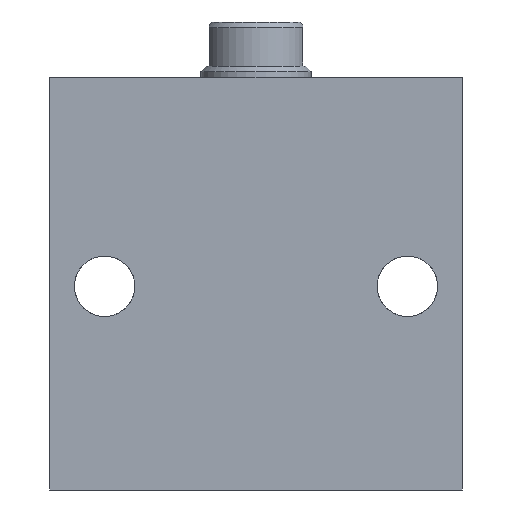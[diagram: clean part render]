
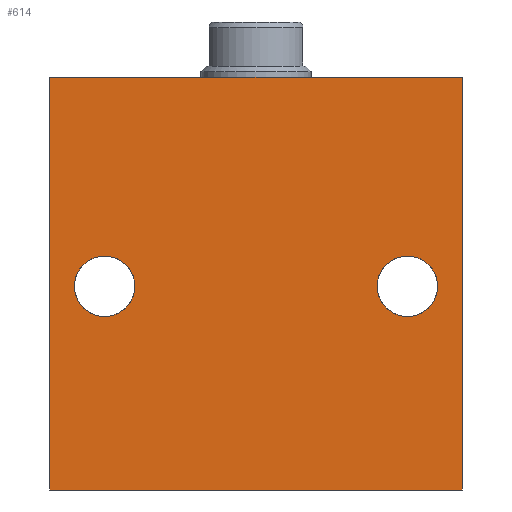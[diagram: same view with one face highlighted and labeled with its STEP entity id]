
A CAD part, front view. The second image highlights one B-rep face of the part: STEP entity #614.
In plain terms, the highlighted planar face has unit normal (0, -1, 0).
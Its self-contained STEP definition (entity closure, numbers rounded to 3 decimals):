
#2 = AXIS2_PLACEMENT_3D ( 'NONE', #630, #698, #694 ) ;
#3 = AXIS2_PLACEMENT_3D ( 'NONE', #636, #634, #633 ) ;
#12 = EDGE_CURVE ( 'NONE', #523, #530, #1974, .T. ) ;
#13 = EDGE_CURVE ( 'NONE', #523, #532, #1973, .T. ) ;
#14 = EDGE_CURVE ( 'NONE', #532, #524, #1972, .T. ) ;
#15 = EDGE_CURVE ( 'NONE', #406, #482, #1968, .T. ) ;
#16 = EDGE_CURVE ( 'NONE', #540, #502, #1970, .T. ) ;
#42 = EDGE_CURVE ( 'NONE', #530, #524, #1940, .T. ) ;
#167 = ORIENTED_EDGE ( 'NONE', *, *, #13, .T. ) ;
#168 = ORIENTED_EDGE ( 'NONE', *, *, #12, .F. ) ;
#169 = ORIENTED_EDGE ( 'NONE', *, *, #42, .F. ) ;
#170 = ORIENTED_EDGE ( 'NONE', *, *, #14, .T. ) ;
#171 = ORIENTED_EDGE ( 'NONE', *, *, #2275, .T. ) ;
#172 = ORIENTED_EDGE ( 'NONE', *, *, #15, .T. ) ;
#173 = ORIENTED_EDGE ( 'NONE', *, *, #2259, .T. ) ;
#174 = ORIENTED_EDGE ( 'NONE', *, *, #16, .T. ) ;
#305 = EDGE_LOOP ( 'NONE', ( #172, #171 ) ) ;
#311 = EDGE_LOOP ( 'NONE', ( #170, #169, #168, #167 ) ) ;
#314 = EDGE_LOOP ( 'NONE', ( #174, #173 ) ) ;
#406 = VERTEX_POINT ( 'NONE', #1155 ) ;
#482 = VERTEX_POINT ( 'NONE', #1137 ) ;
#502 = VERTEX_POINT ( 'NONE', #1129 ) ;
#523 = VERTEX_POINT ( 'NONE', #1103 ) ;
#524 = VERTEX_POINT ( 'NONE', #1102 ) ;
#530 = VERTEX_POINT ( 'NONE', #1094 ) ;
#532 = VERTEX_POINT ( 'NONE', #1092 ) ;
#540 = VERTEX_POINT ( 'NONE', #1184 ) ;
#614 = ADVANCED_FACE ( 'NONE', ( #1752, #1749, #1755 ), #936, .F. ) ;
#630 = CARTESIAN_POINT ( 'NONE',  ( -27.5, -27.5, 37. ) ) ;
#633 = DIRECTION ( 'NONE',  ( 0., 0., 1. ) ) ;
#634 = DIRECTION ( 'NONE',  ( 0., 1., 0. ) ) ;
#636 = CARTESIAN_POINT ( 'NONE',  ( 27.5, -27.5, 37. ) ) ;
#658 = DIRECTION ( 'NONE',  ( 1., 0., 0. ) ) ;
#667 = DIRECTION ( 'NONE',  ( 0., 0., -1. ) ) ;
#679 = CARTESIAN_POINT ( 'NONE',  ( -37.5, -27.5, 75. ) ) ;
#680 = CARTESIAN_POINT ( 'NONE',  ( -37.5, -27.5, 75. ) ) ;
#691 = CARTESIAN_POINT ( 'NONE',  ( -37.5, -27.5, 0. ) ) ;
#694 = DIRECTION ( 'NONE',  ( 0., 0., 1. ) ) ;
#696 = DIRECTION ( 'NONE',  ( 1., 0., 0. ) ) ;
#698 = DIRECTION ( 'NONE',  ( 0., 1., 0. ) ) ;
#702 = DIRECTION ( 'NONE',  ( 0., 0., 1. ) ) ;
#703 = DIRECTION ( 'NONE',  ( 0., 1., 0. ) ) ;
#704 = CARTESIAN_POINT ( 'NONE',  ( 27.5, -27.5, 37. ) ) ;
#772 = DIRECTION ( 'NONE',  ( 0., 0., 1. ) ) ;
#773 = DIRECTION ( 'NONE',  ( 0., 1., 0. ) ) ;
#775 = CARTESIAN_POINT ( 'NONE',  ( -27.5, -27.5, 37. ) ) ;
#934 = DIRECTION ( 'NONE',  ( 0., 0., 1. ) ) ;
#936 = PLANE ( 'NONE',  #2127 ) ;
#940 = CARTESIAN_POINT ( 'NONE',  ( -37.5, -27.5, 75. ) ) ;
#953 = DIRECTION ( 'NONE',  ( 0., 1., 0. ) ) ;
#1092 = CARTESIAN_POINT ( 'NONE',  ( -37.5, -27.5, 0. ) ) ;
#1094 = CARTESIAN_POINT ( 'NONE',  ( 37.5, -27.5, 75. ) ) ;
#1102 = CARTESIAN_POINT ( 'NONE',  ( 37.5, -27.5, 0. ) ) ;
#1103 = CARTESIAN_POINT ( 'NONE',  ( -37.5, -27.5, 75. ) ) ;
#1129 = CARTESIAN_POINT ( 'NONE',  ( -27.5, -27.5, 31.5 ) ) ;
#1137 = CARTESIAN_POINT ( 'NONE',  ( 27.5, -27.5, 31.5 ) ) ;
#1155 = CARTESIAN_POINT ( 'NONE',  ( 27.5, -27.5, 42.5 ) ) ;
#1184 = CARTESIAN_POINT ( 'NONE',  ( -27.5, -27.5, 42.5 ) ) ;
#1278 = CARTESIAN_POINT ( 'NONE',  ( 37.5, -27.5, 75. ) ) ;
#1279 = DIRECTION ( 'NONE',  ( 0., 0., -1. ) ) ;
#1697 = CIRCLE ( 'NONE', #2203, 5.5 ) ;
#1711 = CIRCLE ( 'NONE', #2211, 5.5 ) ;
#1749 = FACE_BOUND ( 'NONE', #305, .T. ) ;
#1752 = FACE_BOUND ( 'NONE', #314, .T. ) ;
#1755 = FACE_OUTER_BOUND ( 'NONE', #311, .T. ) ;
#1936 = VECTOR ( 'NONE', #1279, 1000. ) ;
#1940 = LINE ( 'NONE', #1278, #1936 ) ;
#1967 = VECTOR ( 'NONE', #658, 1000. ) ;
#1968 = CIRCLE ( 'NONE', #3, 5.5 ) ;
#1969 = VECTOR ( 'NONE', #667, 1000. ) ;
#1970 = CIRCLE ( 'NONE', #2, 5.5 ) ;
#1971 = VECTOR ( 'NONE', #696, 1000. ) ;
#1972 = LINE ( 'NONE', #691, #1967 ) ;
#1973 = LINE ( 'NONE', #680, #1969 ) ;
#1974 = LINE ( 'NONE', #679, #1971 ) ;
#2127 = AXIS2_PLACEMENT_3D ( 'NONE', #940, #953, #934 ) ;
#2203 = AXIS2_PLACEMENT_3D ( 'NONE', #704, #703, #702 ) ;
#2211 = AXIS2_PLACEMENT_3D ( 'NONE', #775, #773, #772 ) ;
#2259 = EDGE_CURVE ( 'NONE', #502, #540, #1711, .T. ) ;
#2275 = EDGE_CURVE ( 'NONE', #482, #406, #1697, .T. ) ;
